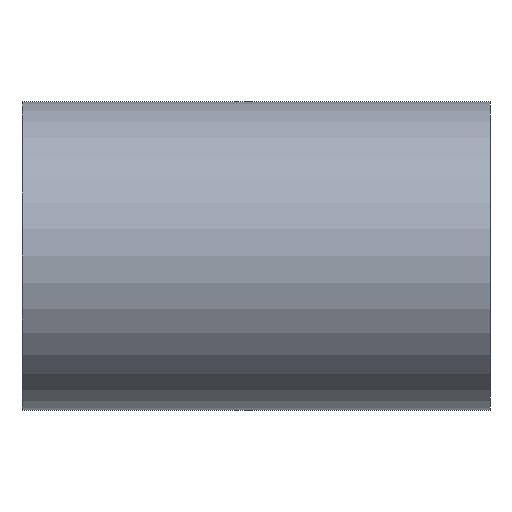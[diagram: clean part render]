
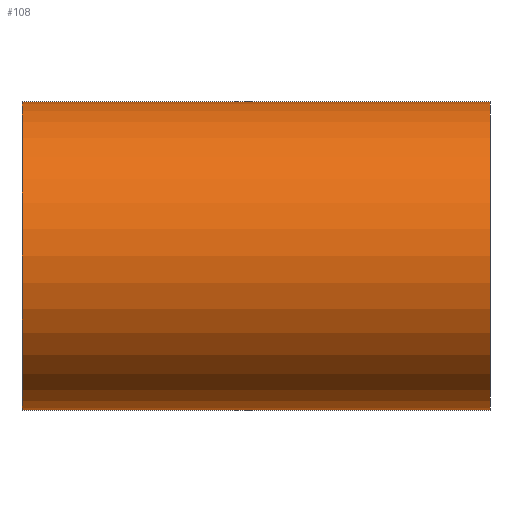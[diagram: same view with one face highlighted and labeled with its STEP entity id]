
A CAD part, front view. The second image highlights one B-rep face of the part: STEP entity #108.
In plain terms, the highlighted cylindrical face has radius 330 mm (diameter 660 mm), a partial arc.
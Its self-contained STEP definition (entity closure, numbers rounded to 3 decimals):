
#108=ADVANCED_FACE('',(#212),#213,.T.);
#212=FACE_OUTER_BOUND('',#335,.T.);
#213=CYLINDRICAL_SURFACE('',#336,330.0);
#335=EDGE_LOOP('',(#587,#588,#589,#590));
#336=AXIS2_PLACEMENT_3D('',#591,#592,#593);
#587=ORIENTED_EDGE('',*,*,#659,.T.);
#588=ORIENTED_EDGE('',*,*,#768,.F.);
#589=ORIENTED_EDGE('',*,*,#661,.T.);
#590=ORIENTED_EDGE('',*,*,#769,.F.);
#591=CARTESIAN_POINT('',(0.0,0.0,0.0));
#592=DIRECTION('',(1.0,0.0,0.0));
#593=DIRECTION('',(0.0,0.0,-1.0));
#659=EDGE_CURVE('',#773,#774,#775,.T.);
#661=EDGE_CURVE('',#778,#776,#779,.T.);
#768=EDGE_CURVE('',#778,#774,#938,.T.);
#769=EDGE_CURVE('',#773,#776,#939,.T.);
#773=VERTEX_POINT('',#943);
#774=VERTEX_POINT('',#944);
#775=LINE('',#945,#946);
#776=VERTEX_POINT('',#947);
#778=VERTEX_POINT('',#949);
#779=LINE('',#950,#951);
#938=CIRCLE('',#1136,330.0);
#939=CIRCLE('',#1137,330.0);
#943=CARTESIAN_POINT('',(-500.0,0.0,-330.0));
#944=CARTESIAN_POINT('',(500.0,0.0,-330.0));
#945=CARTESIAN_POINT('',(0.0,0.,-330.0));
#946=VECTOR('',#1140,1.0);
#947=CARTESIAN_POINT('',(-500.0,0.,330.0));
#949=CARTESIAN_POINT('',(500.0,0.,330.0));
#950=CARTESIAN_POINT('',(0.0,0.,330.0));
#951=VECTOR('',#1144,1.0);
#1136=AXIS2_PLACEMENT_3D('',#1330,#1331,#1332);
#1137=AXIS2_PLACEMENT_3D('',#1333,#1334,#1335);
#1140=DIRECTION('',(1.0,0.0,0.0));
#1144=DIRECTION('',(-1.0,-0.0,-0.0));
#1330=CARTESIAN_POINT('',(500.0,0.0,0.0));
#1331=DIRECTION('',(1.0,0.0,0.0));
#1332=DIRECTION('',(0.0,0.0,-1.0));
#1333=CARTESIAN_POINT('',(-500.0,0.0,0.0));
#1334=DIRECTION('',(-1.0,0.0,0.0));
#1335=DIRECTION('',(0.0,0.0,-1.0));
